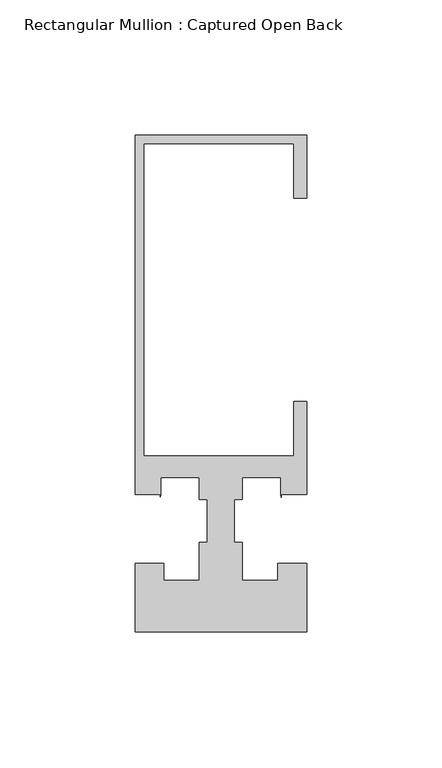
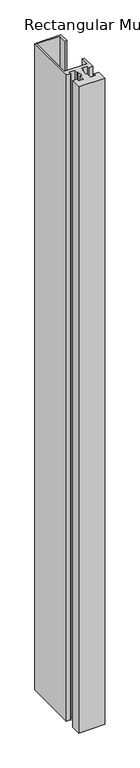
"""IFC4 building model written with IfcOpenShell, lengths in millimetres: member geometry, Rectangular Mullion : Captured Open Back."""

import ifcopenshell
import ifcopenshell.guid

model = None  # the IFC model being written
_history = None  # IfcOwnerHistory: only IFC2X3 demands one
_inside = {}  # id of a spatial element -> (the spatial element, [elements in it])
_under = {}  # id of a project, library or spatial element -> (it, [spatial elements below it])
_declared = {}  # id of a project -> (the project, [libraries it declares])
_typed = {}  # id of a type object -> (the type object, [elements of that type])
_made_of = {}  # id of a material, layer set ... -> (it, [elements and type objects made of it])


def new_model(schema):
    """Start an empty IFC model of exactly this schema.

    Asked for "IFC4X3", IfcOpenShell would pick the latest addendum, in which some entities
    have other attributes; the version numbers below select the first issue.
    IFC2X3 requires an IfcOwnerHistory on every rooted entity: one is made here for all.
    """
    global model, _history
    if schema == "IFC4X3":
        model = ifcopenshell.file(schema_version=(4, 3, 0, 0))
    else:
        model = ifcopenshell.file(schema=schema)
    _inside.clear()
    _under.clear()
    _declared.clear()
    _typed.clear()
    _made_of.clear()
    _history = None
    if model.schema == "IFC2X3":
        org = make("IfcOrganization", Name="unknown")
        user = make(
            "IfcPersonAndOrganization",
            ThePerson=make("IfcPerson", FamilyName="unknown"),
            TheOrganization=org,
        )
        app = make(
            "IfcApplication",
            ApplicationDeveloper=org,
            Version="unknown",
            ApplicationFullName="unknown",
            ApplicationIdentifier="unknown",
        )
        _history = make(
            "IfcOwnerHistory",
            OwningUser=user,
            OwningApplication=app,
            ChangeAction="ADDED",
            CreationDate=0,
        )
    return model


def make(cls, **values):
    """One entity of the class cls with the attributes given. An attribute that is None is left unset."""
    return model.create_entity(
        cls, **{name: value for name, value in values.items() if value is not None}
    )


def rooted(cls, **values):
    """An entity with a GlobalId (a new one), such as an element, a storey or a relation."""
    return make(cls, GlobalId=ifcopenshell.guid.new(), OwnerHistory=_history, **values)


def si_unit(unit_type, name, prefix=None):
    """IfcSIUnit, for example si_unit("LENGTHUNIT", "METRE", prefix="MILLI")."""
    return make("IfcSIUnit", UnitType=unit_type, Prefix=prefix, Name=name)


def assignment(units):
    """IfcUnitAssignment: the units of a project."""
    return None if units is None else make("IfcUnitAssignment", Units=units)


def point(xyz):
    """IfcCartesianPoint."""
    return None if xyz is None else make("IfcCartesianPoint", Coordinates=xyz)


def direction(xyz):
    """IfcDirection."""
    return None if xyz is None else make("IfcDirection", DirectionRatios=xyz)


def frame(location, z_axis=None, x_axis=None):
    """IfcAxis2Placement3D, a coordinate frame: its origin and axes. An axis left out is left unset."""
    return make(
        "IfcAxis2Placement3D",
        Location=point(location),
        Axis=direction(z_axis),
        RefDirection=direction(x_axis),
    )


def origin():
    """The frame at (0, 0, 0) with its axes left unset."""
    return frame((0.0, 0.0, 0.0))


def place(relative_to, where):
    """IfcLocalPlacement: puts the frame where relative to a parent placement (None: the world)."""
    return make(
        "IfcLocalPlacement", PlacementRelTo=relative_to, RelativePlacement=where
    )


def context(
    kind, dimensions, precision=None, world=None, true_north=None, identifier=None
):
    """IfcGeometricRepresentationContext, for example the 3D "Model" context."""
    return make(
        "IfcGeometricRepresentationContext",
        ContextIdentifier=identifier,
        ContextType=kind,
        CoordinateSpaceDimension=dimensions,
        Precision=precision,
        WorldCoordinateSystem=world,
        TrueNorth=true_north,
    )


def project(units=None, contexts=None):
    """IfcProject with its units and contexts."""
    return rooted(
        "IfcProject",
        Name="project",
        RepresentationContexts=contexts,
        UnitsInContext=assignment(units),
    )


def spatial(cls, under=None, at=None, **own):
    """A site, building, storey or space (cls), placed at a placement, below another one or the project."""
    s = rooted(cls, ObjectPlacement=at, **own)
    if under is not None:
        _under.setdefault(under.id(), (under, []))[1].append(s)
    return s


def polyline(points):
    """IfcPolyline through the points."""
    return make("IfcPolyline", Points=[point(p) for p in points])


def outline(outer, holes=None, kind="AREA"):
    """IfcArbitraryClosedProfileDef: a profile drawn as a closed curve; with holes, ...WithVoids."""
    if holes is None:
        return make("IfcArbitraryClosedProfileDef", ProfileType=kind, OuterCurve=outer)
    return make(
        "IfcArbitraryProfileDefWithVoids",
        ProfileType=kind,
        OuterCurve=outer,
        InnerCurves=holes,
    )


def extrude(swept, where, along, depth):
    """IfcExtrudedAreaSolid: the profile swept, set in the frame where, extruded along a direction by depth."""
    return make(
        "IfcExtrudedAreaSolid",
        SweptArea=swept,
        Position=where,
        ExtrudedDirection=direction(along),
        Depth=depth,
    )


def shape(context_of_items, identifier, shape_type, items):
    """IfcShapeRepresentation: the items that make up one representation, for example the "Body"."""
    return make(
        "IfcShapeRepresentation",
        ContextOfItems=context_of_items,
        RepresentationIdentifier=identifier,
        RepresentationType=shape_type,
        Items=items,
    )


def source(mapping_origin, context_of_items, identifier, shape_type, items):
    """IfcRepresentationMap: a shape defined once, which mapped items show again and again."""
    return make(
        "IfcRepresentationMap",
        MappingOrigin=mapping_origin,
        MappedRepresentation=shape(context_of_items, identifier, shape_type, items),
    )


def transform(
    local_origin,
    x_axis=None,
    y_axis=None,
    z_axis=None,
    scale=None,
    scale2=None,
    scale3=None,
    uniform=True,
):
    """IfcCartesianTransformationOperator3D, or its non-uniform kind. x_axis, y_axis, z_axis: its Axis1, 2, 3."""
    if uniform:
        return make(
            "IfcCartesianTransformationOperator3D",
            Axis1=direction(x_axis),
            Axis2=direction(y_axis),
            LocalOrigin=point(local_origin),
            Scale=scale,
            Axis3=direction(z_axis),
        )
    return make(
        "IfcCartesianTransformationOperator3DnonUniform",
        Axis1=direction(x_axis),
        Axis2=direction(y_axis),
        LocalOrigin=point(local_origin),
        Scale=scale,
        Axis3=direction(z_axis),
        Scale2=scale2,
        Scale3=scale3,
    )


def mapped(mapping_source, mapping_target):
    """IfcMappedItem: shows the shape of a source again, moved by a transform."""
    return make(
        "IfcMappedItem", MappingSource=mapping_source, MappingTarget=mapping_target
    )


def made_of(thing, what):
    """Note that an element or type object is made of a material, layer set ...; save() writes the relation."""
    if what is not None:
        _made_of.setdefault(what.id(), (what, []))[1].append(thing)
    return thing


def element(
    cls,
    number,
    at=None,
    inside=None,
    cuts=None,
    type_object=None,
    material=None,
    context=None,
    identifier="Body",
    shape_type=None,
    held_by="IfcProductDefinitionShape",
    body=None,
    shapes=None,
    **own,
):
    """One element of the class cls, such as IfcWall. Its Tag is "e" and its number.

    at: its placement. inside: the storey or other place that contains it. cuts: it is an
    opening in that element (IfcRelVoidsElement). A single representation is given by context,
    identifier, shape_type and body (its items); several are given by shapes. held_by: the class
    of the entity that holds the representations. save() writes the other relations.
    """
    e = rooted(cls, Tag="e%d" % number, ObjectPlacement=at, **own)
    if body is not None:
        shapes = [shape(context, identifier, shape_type, body)]
    if shapes is not None:
        e.Representation = make(held_by, Representations=shapes)
    if inside is not None:
        _inside.setdefault(inside.id(), (inside, []))[1].append(e)
    if cuts is not None:
        rooted(
            "IfcRelVoidsElement", RelatingBuildingElement=cuts, RelatedOpeningElement=e
        )
    if type_object is not None:
        _typed.setdefault(type_object.id(), (type_object, []))[1].append(e)
    return made_of(e, material)


def aggregate(whole, parts):
    """IfcRelAggregates: a whole, such as a stair, and the parts it consists of."""
    return rooted("IfcRelAggregates", RelatingObject=whole, RelatedObjects=parts)


def save(model, path):
    """Write the relations noted so far, then the file.

    IfcRelAggregates (storeys below a building ...), IfcRelContainedInSpatialStructure (elements
    in a storey), IfcRelDefinesByType, IfcRelAssociatesMaterial and IfcRelDeclares: one each for
    every whole, place, type object, material and project.
    """
    for whole, parts in _under.values():
        aggregate(whole, parts)
    for where, things in _inside.values():
        rooted(
            "IfcRelContainedInSpatialStructure",
            RelatedElements=things,
            RelatingStructure=where,
        )
    for kind, things in _typed.values():
        rooted("IfcRelDefinesByType", RelatedObjects=things, RelatingType=kind)
    for what, things in _made_of.values():
        rooted("IfcRelAssociatesMaterial", RelatedObjects=things, RelatingMaterial=what)
    for by, libraries in _declared.values():
        rooted("IfcRelDeclares", RelatingContext=by, RelatedDefinitions=libraries)
    model.write(path)


def rectangular_mullion_captured_open_back_60071de4(model_context):
    return source(origin(), model_context, "Body", "SweptSolid", [
        extrude(outline(polyline([(0.0, 114.3), (0.0, 90.8721193), (-4.7830665, 90.8721193), (-4.7830665, 111.1250145), (-60.3449493, 111.1250145), (-60.3449493, -4.7625735), (-4.7830665, -4.7625735), (-4.7830665, 15.5833982), (0.0, 15.5833982), (0.0, -18.933673), (-9.3791839, -18.933673), (-9.3791839, -20.0839351), (-9.5454538, -18.933673), (-9.5454538, -12.7), (-23.7289004, -12.7), (-23.7289004, -20.8793999), (-26.7817813, -20.8793999), (-26.7817813, -36.6491027), (-23.833119, -36.6491027), (-23.833119, -50.8001709), (-10.6860183, -50.8001709), (-10.6860183, -44.4245655), (0.0, -44.4245655), (0.0, -69.8502416), (-63.5, -69.8502416), (-63.5, -44.4247364), (-52.7976545, -44.4247364), (-52.7976545, -50.8001709), (-39.7081202, -50.8001709), (-39.7081202, -36.6491027), (-36.7345137, -36.6491027), (-36.7345137, -20.8793999), (-39.7081204, -20.8793999), (-39.7081204, -12.7), (-53.9955753, -12.7), (-53.9955753, -18.948961), (-54.1818814, -19.8905485), (-54.1818814, -18.9488461), (-63.5205663, -18.9488461), (-63.5205663, 114.3), (0.0, 114.3)])), frame((0.0, 0.0, -1663.6794337), z_axis=(0.0, 0.0, 1.0), x_axis=(1.0, 0.0, 0.0)), (0.0, 0.0, 1.0), 1663.6794337),
    ])


if __name__ == "__main__":
    model = new_model("IFC4")
    model_context = context("Model", 3, world=origin())
    ifc_project = project(units=[si_unit("LENGTHUNIT", "METRE", prefix="MILLI")], contexts=[model_context])
    site = spatial("IfcSite", under=ifc_project)
    building = spatial("IfcBuilding", under=site)
    placement = place(None, origin())
    rectangular_mullion_captured_open_back_shape = rectangular_mullion_captured_open_back_60071de4(model_context)
    element("IfcMember", 1, ObjectType="Rectangular Mullion : Captured Open Back", at=placement, inside=building, context=model_context, shape_type="MappedRepresentation", body=[
        mapped(rectangular_mullion_captured_open_back_shape, transform((0.0, 0.0, 0.0), x_axis=(1.0, 0.0, 0.0), y_axis=(0.0, 1.0, 0.0), z_axis=(0.0, 0.0, 1.0))),
    ])
    save(model, "model.ifc")
